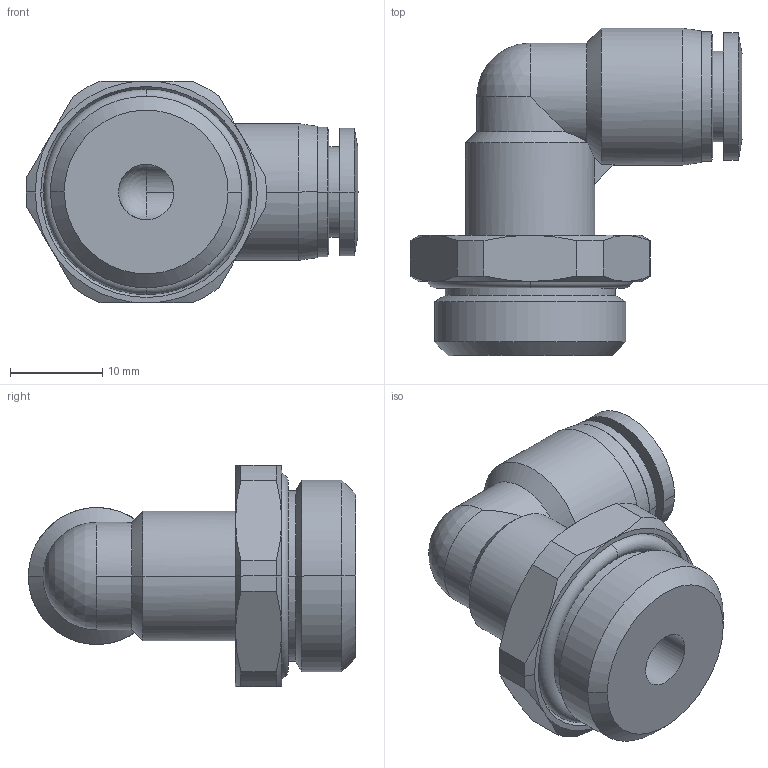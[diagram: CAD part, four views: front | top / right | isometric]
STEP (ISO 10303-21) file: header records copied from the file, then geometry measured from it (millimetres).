
FILE_DESCRIPTION (( 'STEP AP203' ), '1' );
FILE_NAME ('FL08-04.STEP', '2020-04-28T13:43:16', ( '' ), ( '' ), 'SwSTEP 2.0', 'SolidWorks 2019', '' );
FILE_SCHEMA (( 'CONFIG_CONTROL_DESIGN' ));
Length unit declared in the file: millimetre
Products named in the file (1): FL08-04
Bounding box: 35.9 x 35.4 x 24 mm (x, y, z)
Surface area: 5150.9 mm2 (no closed solid volume)
Topology: 0 solids, 4 shells, 90 faces, 215 edges, 134 vertices
Faces by surface type: cylinder 33, cone 30, plane 19, torus 4, bspline 2, sphere 2
Entity records: 4443 total; most frequent: CARTESIAN_POINT 2652, ORIENTED_EDGE 412, DIRECTION 227, EDGE_CURVE 214, B_SPLINE_CURVE_WITH_KNOTS 163, VERTEX_POINT 134, EDGE_LOOP 100, AXIS2_PLACEMENT_3D 93
